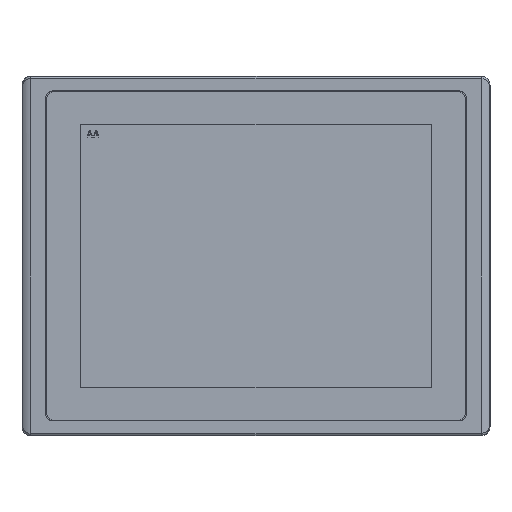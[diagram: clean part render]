
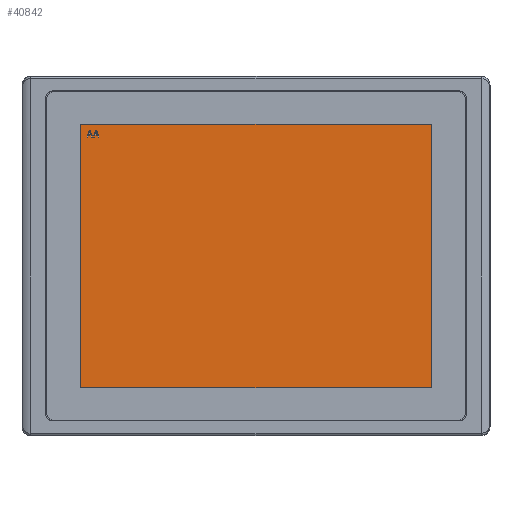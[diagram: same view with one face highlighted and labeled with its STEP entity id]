
A CAD part, top view. The second image highlights one B-rep face of the part: STEP entity #40842.
In plain terms, the highlighted planar face has unit normal (0, 0, 1).
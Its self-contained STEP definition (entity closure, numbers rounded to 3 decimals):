
#40185=DIRECTION('',(0.,1.,0.));
#40186=VECTOR('',#40185,122.5);
#40187=CARTESIAN_POINT('',(-81.5,-61.25,-0.14));
#40188=LINE('',#40187,#40186);
#40189=DIRECTION('',(1.,0.,0.));
#40190=VECTOR('',#40189,163.);
#40191=CARTESIAN_POINT('',(-81.5,61.25,-0.14));
#40192=LINE('',#40191,#40190);
#40193=DIRECTION('',(0.,-1.,0.));
#40194=VECTOR('',#40193,122.5);
#40195=CARTESIAN_POINT('',(81.5,61.25,-0.14));
#40196=LINE('',#40195,#40194);
#40197=DIRECTION('',(-1.,0.,0.));
#40198=VECTOR('',#40197,163.);
#40199=CARTESIAN_POINT('',(81.5,-61.25,-0.14));
#40200=LINE('',#40199,#40198);
#40201=DIRECTION('',(-0.316,0.949,0.));
#40202=VECTOR('',#40201,3.162);
#40203=CARTESIAN_POINT('',(-76.,55.25,-0.14));
#40204=LINE('',#40203,#40202);
#40205=DIRECTION('',(-1.,0.,0.));
#40206=VECTOR('',#40205,0.5);
#40207=CARTESIAN_POINT('',(-77.,58.25,-0.14));
#40208=LINE('',#40207,#40206);
#40209=DIRECTION('',(-0.316,-0.949,0.));
#40210=VECTOR('',#40209,3.162);
#40211=CARTESIAN_POINT('',(-77.5,58.25,-0.14));
#40212=LINE('',#40211,#40210);
#40213=DIRECTION('',(1.,0.,0.));
#40214=VECTOR('',#40213,0.375);
#40215=CARTESIAN_POINT('',(-78.5,55.25,-0.14));
#40216=LINE('',#40215,#40214);
#40217=DIRECTION('',(0.31,0.951,0.));
#40218=VECTOR('',#40217,0.806);
#40219=CARTESIAN_POINT('',(-78.125,55.25,-0.14));
#40220=LINE('',#40219,#40218);
#40221=DIRECTION('',(1.,0.,0.));
#40222=VECTOR('',#40221,1.25);
#40223=CARTESIAN_POINT('',(-77.875,56.016,-0.14));
#40224=LINE('',#40223,#40222);
#40225=DIRECTION('',(0.31,-0.951,0.));
#40226=VECTOR('',#40225,0.806);
#40227=CARTESIAN_POINT('',(-76.625,56.016,-0.14));
#40228=LINE('',#40227,#40226);
#40229=DIRECTION('',(1.,0.,0.));
#40230=VECTOR('',#40229,0.375);
#40231=CARTESIAN_POINT('',(-76.375,55.25,-0.14));
#40232=LINE('',#40231,#40230);
#40245=DIRECTION('',(-0.316,0.949,0.));
#40246=VECTOR('',#40245,3.162);
#40247=CARTESIAN_POINT('',(-73.,55.25,-0.14));
#40248=LINE('',#40247,#40246);
#40249=DIRECTION('',(-1.,0.,0.));
#40250=VECTOR('',#40249,0.5);
#40251=CARTESIAN_POINT('',(-74.,58.25,-0.14));
#40252=LINE('',#40251,#40250);
#40253=DIRECTION('',(-0.316,-0.949,0.));
#40254=VECTOR('',#40253,3.162);
#40255=CARTESIAN_POINT('',(-74.5,58.25,-0.14));
#40256=LINE('',#40255,#40254);
#40257=DIRECTION('',(1.,0.,0.));
#40258=VECTOR('',#40257,0.375);
#40259=CARTESIAN_POINT('',(-75.5,55.25,-0.14));
#40260=LINE('',#40259,#40258);
#40261=DIRECTION('',(0.31,0.951,0.));
#40262=VECTOR('',#40261,0.806);
#40263=CARTESIAN_POINT('',(-75.125,55.25,-0.14));
#40264=LINE('',#40263,#40262);
#40265=DIRECTION('',(1.,0.,0.));
#40266=VECTOR('',#40265,1.25);
#40267=CARTESIAN_POINT('',(-74.875,56.016,-0.14));
#40268=LINE('',#40267,#40266);
#40269=DIRECTION('',(0.31,-0.951,0.));
#40270=VECTOR('',#40269,0.806);
#40271=CARTESIAN_POINT('',(-73.625,56.016,-0.14));
#40272=LINE('',#40271,#40270);
#40273=DIRECTION('',(1.,0.,0.));
#40274=VECTOR('',#40273,0.375);
#40275=CARTESIAN_POINT('',(-73.375,55.25,-0.14));
#40276=LINE('',#40275,#40274);
#40377=CARTESIAN_POINT('',(-81.5,-61.25,-0.14));
#40378=CARTESIAN_POINT('',(-81.5,61.25,-0.14));
#40379=VERTEX_POINT('',#40377);
#40380=VERTEX_POINT('',#40378);
#40381=CARTESIAN_POINT('',(81.5,-61.25,-0.14));
#40382=VERTEX_POINT('',#40381);
#40383=CARTESIAN_POINT('',(81.5,61.25,-0.14));
#40384=VERTEX_POINT('',#40383);
#40385=CARTESIAN_POINT('',(-76.,55.25,-0.14));
#40386=CARTESIAN_POINT('',(-77.,58.25,-0.14));
#40387=VERTEX_POINT('',#40385);
#40388=VERTEX_POINT('',#40386);
#40389=CARTESIAN_POINT('',(-76.375,55.25,-0.14));
#40390=VERTEX_POINT('',#40389);
#40391=CARTESIAN_POINT('',(-76.625,56.016,-0.14));
#40392=VERTEX_POINT('',#40391);
#40393=CARTESIAN_POINT('',(-77.875,56.016,-0.14));
#40394=VERTEX_POINT('',#40393);
#40395=CARTESIAN_POINT('',(-78.125,55.25,-0.14));
#40396=VERTEX_POINT('',#40395);
#40397=CARTESIAN_POINT('',(-78.5,55.25,-0.14));
#40398=VERTEX_POINT('',#40397);
#40399=CARTESIAN_POINT('',(-77.5,58.25,-0.14));
#40400=VERTEX_POINT('',#40399);
#40407=CARTESIAN_POINT('',(-73.,55.25,-0.14));
#40408=CARTESIAN_POINT('',(-74.,58.25,-0.14));
#40409=VERTEX_POINT('',#40407);
#40410=VERTEX_POINT('',#40408);
#40411=CARTESIAN_POINT('',(-73.375,55.25,-0.14));
#40412=VERTEX_POINT('',#40411);
#40413=CARTESIAN_POINT('',(-73.625,56.016,-0.14));
#40414=VERTEX_POINT('',#40413);
#40415=CARTESIAN_POINT('',(-74.875,56.016,-0.14));
#40416=VERTEX_POINT('',#40415);
#40417=CARTESIAN_POINT('',(-75.125,55.25,-0.14));
#40418=VERTEX_POINT('',#40417);
#40419=CARTESIAN_POINT('',(-75.5,55.25,-0.14));
#40420=VERTEX_POINT('',#40419);
#40421=CARTESIAN_POINT('',(-74.5,58.25,-0.14));
#40422=VERTEX_POINT('',#40421);
#40795=CARTESIAN_POINT('',(0.,0.,-0.14));
#40796=DIRECTION('',(0.,0.,1.));
#40797=DIRECTION('',(1.,0.,0.));
#40798=AXIS2_PLACEMENT_3D('',#40795,#40796,#40797);
#40799=PLANE('',#40798);
#40800=ORIENTED_EDGE('',*,*,#40747,.T.);
#40801=ORIENTED_EDGE('',*,*,#40762,.T.);
#40802=ORIENTED_EDGE('',*,*,#40776,.T.);
#40803=ORIENTED_EDGE('',*,*,#40789,.T.);
#40804=EDGE_LOOP('',(#40800,#40801,#40802,#40803));
#40805=FACE_OUTER_BOUND('',#40804,.F.);
#40807=ORIENTED_EDGE('',*,*,#40806,.T.);
#40809=ORIENTED_EDGE('',*,*,#40808,.T.);
#40811=ORIENTED_EDGE('',*,*,#40810,.T.);
#40813=ORIENTED_EDGE('',*,*,#40812,.T.);
#40815=ORIENTED_EDGE('',*,*,#40814,.T.);
#40817=ORIENTED_EDGE('',*,*,#40816,.T.);
#40819=ORIENTED_EDGE('',*,*,#40818,.T.);
#40821=ORIENTED_EDGE('',*,*,#40820,.T.);
#40822=EDGE_LOOP('',(#40807,#40809,#40811,#40813,#40815,#40817,#40819,#40821));
#40823=FACE_BOUND('',#40822,.F.);
#40825=ORIENTED_EDGE('',*,*,#40824,.T.);
#40827=ORIENTED_EDGE('',*,*,#40826,.T.);
#40829=ORIENTED_EDGE('',*,*,#40828,.T.);
#40831=ORIENTED_EDGE('',*,*,#40830,.T.);
#40833=ORIENTED_EDGE('',*,*,#40832,.T.);
#40835=ORIENTED_EDGE('',*,*,#40834,.T.);
#40837=ORIENTED_EDGE('',*,*,#40836,.T.);
#40839=ORIENTED_EDGE('',*,*,#40838,.T.);
#40840=EDGE_LOOP('',(#40825,#40827,#40829,#40831,#40833,#40835,#40837,#40839));
#40841=FACE_BOUND('',#40840,.F.);
#40747=EDGE_CURVE('',#40379,#40380,#40188,.T.);
#40762=EDGE_CURVE('',#40380,#40384,#40192,.T.);
#40776=EDGE_CURVE('',#40384,#40382,#40196,.T.);
#40789=EDGE_CURVE('',#40382,#40379,#40200,.T.);
#40806=EDGE_CURVE('',#40387,#40388,#40204,.T.);
#40808=EDGE_CURVE('',#40388,#40400,#40208,.T.);
#40810=EDGE_CURVE('',#40400,#40398,#40212,.T.);
#40812=EDGE_CURVE('',#40398,#40396,#40216,.T.);
#40814=EDGE_CURVE('',#40396,#40394,#40220,.T.);
#40816=EDGE_CURVE('',#40394,#40392,#40224,.T.);
#40818=EDGE_CURVE('',#40392,#40390,#40228,.T.);
#40820=EDGE_CURVE('',#40390,#40387,#40232,.T.);
#40824=EDGE_CURVE('',#40409,#40410,#40248,.T.);
#40826=EDGE_CURVE('',#40410,#40422,#40252,.T.);
#40828=EDGE_CURVE('',#40422,#40420,#40256,.T.);
#40830=EDGE_CURVE('',#40420,#40418,#40260,.T.);
#40832=EDGE_CURVE('',#40418,#40416,#40264,.T.);
#40834=EDGE_CURVE('',#40416,#40414,#40268,.T.);
#40836=EDGE_CURVE('',#40414,#40412,#40272,.T.);
#40838=EDGE_CURVE('',#40412,#40409,#40276,.T.);
#40842=ADVANCED_FACE('',(#40805,#40823,#40841),#40799,.T.);
